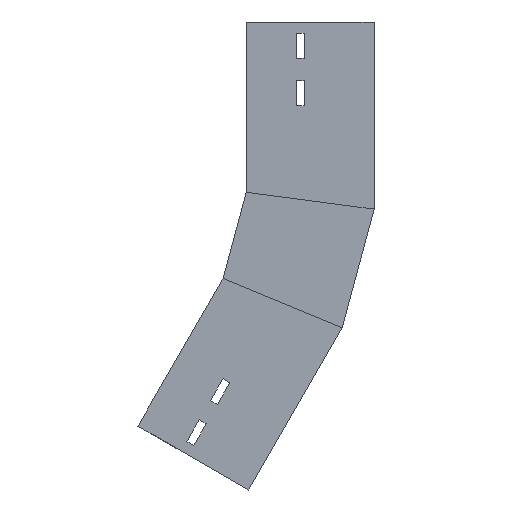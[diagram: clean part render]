
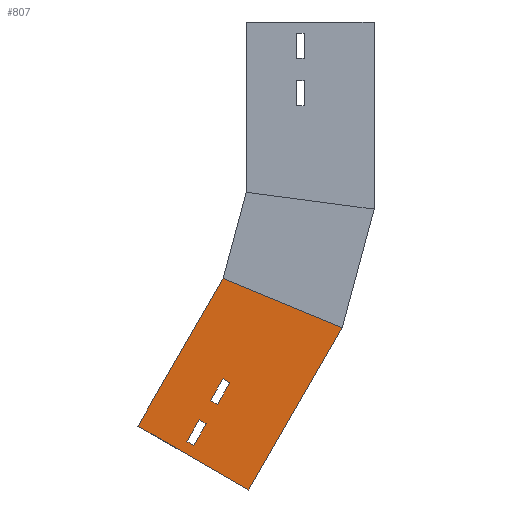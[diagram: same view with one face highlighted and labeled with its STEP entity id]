
A CAD part, left-side view. The second image highlights one B-rep face of the part: STEP entity #807.
In plain terms, the highlighted planar face has unit normal (-1, 0, 0) as drawn and (1, 0, 0) by its records, which use the part's own axes.
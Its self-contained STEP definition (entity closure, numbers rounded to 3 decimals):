
#31 = LINE ( 'NONE', #970, #1139 ) ;
#33 = EDGE_CURVE ( 'NONE', #1490, #467, #1454, .T. ) ;
#49 = ORIENTED_EDGE ( 'NONE', *, *, #33, .T. ) ;
#71 = CARTESIAN_POINT ( 'NONE',  ( 0., 68.5, -51.505 ) ) ;
#91 = LINE ( 'NONE', #684, #1331 ) ;
#126 = LINE ( 'NONE', #596, #1382 ) ;
#140 = DIRECTION ( 'NONE',  ( 0., 0., -1. ) ) ;
#156 = CARTESIAN_POINT ( 'NONE',  ( 0., 68.5, -9.835 ) ) ;
#168 = VECTOR ( 'NONE', #1346, 1000. ) ;
#186 = CARTESIAN_POINT ( 'NONE',  ( 0., 68.5, -51.505 ) ) ;
#232 = DIRECTION ( 'NONE',  ( 0., 0., -1. ) ) ;
#255 = CARTESIAN_POINT ( 'NONE',  ( 0., 68.5, -31.835 ) ) ;
#265 = VECTOR ( 'NONE', #518, 1000. ) ;
#288 = EDGE_LOOP ( 'NONE', ( #435, #1026, #754, #1010 ) ) ;
#311 = DIRECTION ( 'NONE',  ( 0., 0., 1. ) ) ;
#314 = DIRECTION ( 'NONE',  ( 0., 0., 1. ) ) ;
#336 = LINE ( 'NONE', #468, #1096 ) ;
#370 = VERTEX_POINT ( 'NONE', #562 ) ;
#380 = DIRECTION ( 'NONE',  ( 0., 0., 1. ) ) ;
#391 = VERTEX_POINT ( 'NONE', #1362 ) ;
#413 = EDGE_LOOP ( 'NONE', ( #695, #529, #1236, #667 ) ) ;
#435 = ORIENTED_EDGE ( 'NONE', *, *, #643, .F. ) ;
#438 = LINE ( 'NONE', #1353, #168 ) ;
#446 = VERTEX_POINT ( 'NONE', #985 ) ;
#456 = DIRECTION ( 'NONE',  ( 0., 1., 0. ) ) ;
#459 = CARTESIAN_POINT ( 'NONE',  ( 0., 0., 0. ) ) ;
#467 = VERTEX_POINT ( 'NONE', #156 ) ;
#468 = CARTESIAN_POINT ( 'NONE',  ( 0., 21.301, -161.796 ) ) ;
#480 = CARTESIAN_POINT ( 'NONE',  ( 0., 61.5, -9.835 ) ) ;
#484 = VECTOR ( 'NONE', #380, 1000. ) ;
#493 = LINE ( 'NONE', #946, #1399 ) ;
#509 = DIRECTION ( 'NONE',  ( 0., 0., -1. ) ) ;
#518 = DIRECTION ( 'NONE',  ( 0., 0., -1. ) ) ;
#529 = ORIENTED_EDGE ( 'NONE', *, *, #1409, .T. ) ;
#562 = CARTESIAN_POINT ( 'NONE',  ( 0., 112.5, -149.789 ) ) ;
#565 = DIRECTION ( 'NONE',  ( 0., 1., 0. ) ) ;
#569 = ORIENTED_EDGE ( 'NONE', *, *, #648, .T. ) ;
#574 = FACE_BOUND ( 'NONE', #413, .T. ) ;
#596 = CARTESIAN_POINT ( 'NONE',  ( 0., 68.5, -73.505 ) ) ;
#599 = DIRECTION ( 'NONE',  ( 0., -0.991, -0.131 ) ) ;
#643 = EDGE_CURVE ( 'NONE', #1308, #370, #933, .T. ) ;
#648 = EDGE_CURVE ( 'NONE', #391, #1091, #1265, .T. ) ;
#667 = ORIENTED_EDGE ( 'NONE', *, *, #1112, .T. ) ;
#680 = CARTESIAN_POINT ( 'NONE',  ( 0., 68.5, -9.835 ) ) ;
#684 = CARTESIAN_POINT ( 'NONE',  ( 0., 68.5, -51.505 ) ) ;
#695 = ORIENTED_EDGE ( 'NONE', *, *, #1181, .T. ) ;
#722 = VECTOR ( 'NONE', #232, 1000. ) ;
#740 = CARTESIAN_POINT ( 'NONE',  ( 0., 61.5, -51.505 ) ) ;
#751 = CARTESIAN_POINT ( 'NONE',  ( 0., 61.5, -73.505 ) ) ;
#754 = ORIENTED_EDGE ( 'NONE', *, *, #923, .T. ) ;
#767 = VERTEX_POINT ( 'NONE', #751 ) ;
#802 = CARTESIAN_POINT ( 'NONE',  ( 0., 0., 0. ) ) ;
#807 = ADVANCED_FACE ( 'NONE', ( #574, #892, #1323 ), #1227, .F. ) ;
#838 = VECTOR ( 'NONE', #565, 1000. ) ;
#854 = VERTEX_POINT ( 'NONE', #802 ) ;
#868 = VECTOR ( 'NONE', #962, 1000. ) ;
#892 = FACE_OUTER_BOUND ( 'NONE', #288, .T. ) ;
#893 = ORIENTED_EDGE ( 'NONE', *, *, #1348, .T. ) ;
#904 = VERTEX_POINT ( 'NONE', #936 ) ;
#923 = EDGE_CURVE ( 'NONE', #854, #446, #31, .T. ) ;
#933 = LINE ( 'NONE', #950, #722 ) ;
#935 = VERTEX_POINT ( 'NONE', #1267 ) ;
#936 = CARTESIAN_POINT ( 'NONE',  ( 0., 61.5, -51.505 ) ) ;
#945 = EDGE_CURVE ( 'NONE', #467, #391, #493, .T. ) ;
#946 = CARTESIAN_POINT ( 'NONE',  ( 0., 68.5, -9.835 ) ) ;
#950 = CARTESIAN_POINT ( 'NONE',  ( 0., 112.5, 0. ) ) ;
#962 = DIRECTION ( 'NONE',  ( 0., -1., 0. ) ) ;
#970 = CARTESIAN_POINT ( 'NONE',  ( 0., 0., 0. ) ) ;
#985 = CARTESIAN_POINT ( 'NONE',  ( 0., 0., -164.6 ) ) ;
#1010 = ORIENTED_EDGE ( 'NONE', *, *, #1286, .F. ) ;
#1017 = EDGE_LOOP ( 'NONE', ( #49, #1307, #569, #893 ) ) ;
#1026 = ORIENTED_EDGE ( 'NONE', *, *, #1421, .F. ) ;
#1050 = CARTESIAN_POINT ( 'NONE',  ( 0., 61.5, -31.835 ) ) ;
#1052 = AXIS2_PLACEMENT_3D ( 'NONE', #459, #1241, #311 ) ;
#1055 = DIRECTION ( 'NONE',  ( 0., -1., 0. ) ) ;
#1081 = VERTEX_POINT ( 'NONE', #186 ) ;
#1088 = LINE ( 'NONE', #1407, #1187 ) ;
#1091 = VERTEX_POINT ( 'NONE', #1050 ) ;
#1096 = VECTOR ( 'NONE', #599, 1000. ) ;
#1112 = EDGE_CURVE ( 'NONE', #767, #904, #1263, .T. ) ;
#1139 = VECTOR ( 'NONE', #509, 1000. ) ;
#1181 = EDGE_CURVE ( 'NONE', #904, #1081, #91, .T. ) ;
#1187 = VECTOR ( 'NONE', #314, 1000. ) ;
#1227 = PLANE ( 'NONE',  #1052 ) ;
#1236 = ORIENTED_EDGE ( 'NONE', *, *, #1484, .T. ) ;
#1239 = CARTESIAN_POINT ( 'NONE',  ( 0., 112.5, 0. ) ) ;
#1241 = DIRECTION ( 'NONE',  ( -1., 0., 0. ) ) ;
#1263 = LINE ( 'NONE', #740, #484 ) ;
#1265 = LINE ( 'NONE', #255, #868 ) ;
#1267 = CARTESIAN_POINT ( 'NONE',  ( 0., 68.5, -73.505 ) ) ;
#1286 = EDGE_CURVE ( 'NONE', #370, #446, #336, .T. ) ;
#1307 = ORIENTED_EDGE ( 'NONE', *, *, #945, .T. ) ;
#1308 = VERTEX_POINT ( 'NONE', #1239 ) ;
#1323 = FACE_BOUND ( 'NONE', #1017, .T. ) ;
#1331 = VECTOR ( 'NONE', #456, 1000. ) ;
#1346 = DIRECTION ( 'NONE',  ( 0., 1., 0. ) ) ;
#1348 = EDGE_CURVE ( 'NONE', #1091, #1490, #1088, .T. ) ;
#1353 = CARTESIAN_POINT ( 'NONE',  ( 0., 0., 0. ) ) ;
#1362 = CARTESIAN_POINT ( 'NONE',  ( 0., 68.5, -31.835 ) ) ;
#1382 = VECTOR ( 'NONE', #1055, 1000. ) ;
#1399 = VECTOR ( 'NONE', #140, 1000. ) ;
#1407 = CARTESIAN_POINT ( 'NONE',  ( 0., 61.5, -9.835 ) ) ;
#1409 = EDGE_CURVE ( 'NONE', #1081, #935, #1415, .T. ) ;
#1415 = LINE ( 'NONE', #71, #265 ) ;
#1421 = EDGE_CURVE ( 'NONE', #854, #1308, #438, .T. ) ;
#1454 = LINE ( 'NONE', #680, #838 ) ;
#1484 = EDGE_CURVE ( 'NONE', #935, #767, #126, .T. ) ;
#1490 = VERTEX_POINT ( 'NONE', #480 ) ;
